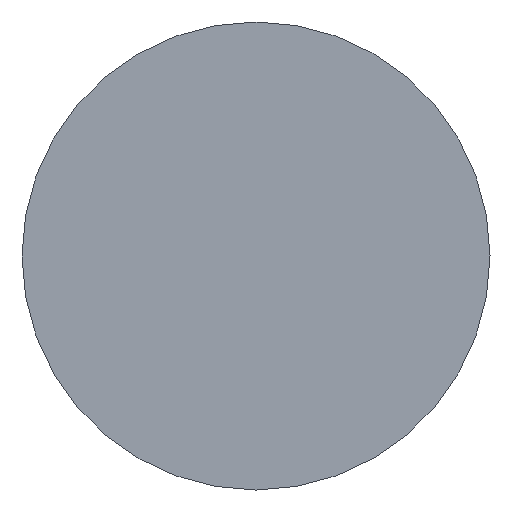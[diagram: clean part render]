
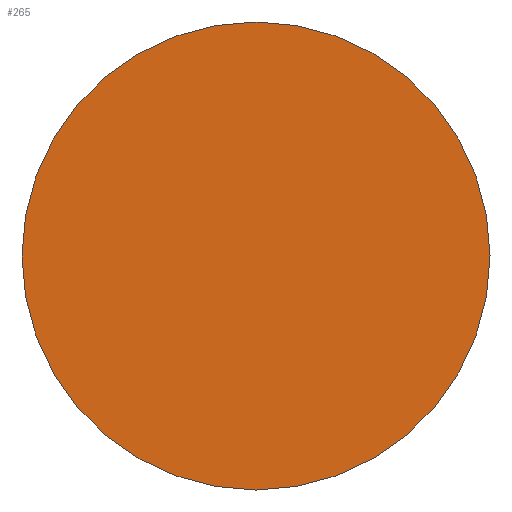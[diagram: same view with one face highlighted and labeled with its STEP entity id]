
A CAD part, left-side view. The second image highlights one B-rep face of the part: STEP entity #265.
In plain terms, the highlighted planar face has unit normal (-1, 0, 0).
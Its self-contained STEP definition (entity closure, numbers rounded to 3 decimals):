
#29=PLANE('',#319);
#46=FACE_OUTER_BOUND('',#65,.T.);
#65=EDGE_LOOP('',(#234,#235));
#114=CIRCLE('',#317,11.);
#115=CIRCLE('',#318,11.);
#139=VERTEX_POINT('',#484);
#140=VERTEX_POINT('',#486);
#173=EDGE_CURVE('',#140,#139,#114,.T.);
#174=EDGE_CURVE('',#139,#140,#115,.T.);
#234=ORIENTED_EDGE('',*,*,#173,.T.);
#235=ORIENTED_EDGE('',*,*,#174,.T.);
#265=ADVANCED_FACE('',(#46),#29,.T.);
#317=AXIS2_PLACEMENT_3D('',#487,#406,#407);
#318=AXIS2_PLACEMENT_3D('',#488,#408,#409);
#319=AXIS2_PLACEMENT_3D('',#489,#410,#411);
#406=DIRECTION('center_axis',(-1.,0.,0.));
#407=DIRECTION('ref_axis',(0.,0.,-1.));
#408=DIRECTION('center_axis',(-1.,0.,0.));
#409=DIRECTION('ref_axis',(0.,0.,-1.));
#410=DIRECTION('center_axis',(-1.,0.,0.));
#411=DIRECTION('ref_axis',(0.,0.,1.));
#484=CARTESIAN_POINT('',(0.,0.,11.));
#486=CARTESIAN_POINT('',(0.,0.,-11.));
#487=CARTESIAN_POINT('Origin',(0.,0.,0.));
#488=CARTESIAN_POINT('Origin',(0.,0.,0.));
#489=CARTESIAN_POINT('Origin',(0.,0.,0.));
